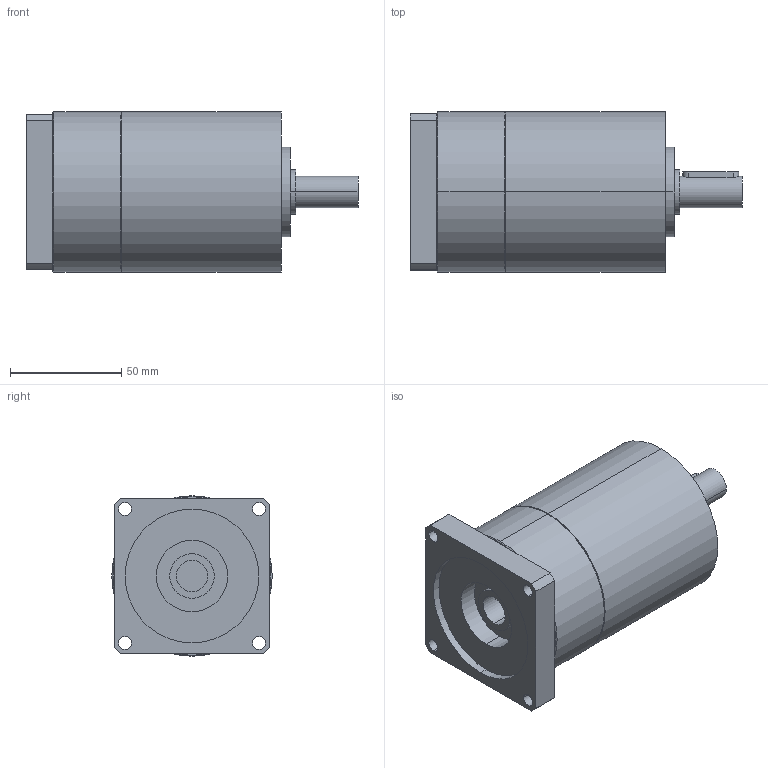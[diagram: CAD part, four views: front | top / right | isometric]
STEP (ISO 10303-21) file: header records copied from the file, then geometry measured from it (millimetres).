
FILE_DESCRIPTION(('CoCreate Modeling STEP Export'),'2;1');
FILE_NAME('GPT75_ig-9-12-16-20-25-28-35-40-50-70-100_14_B14T_14_P30.stp','2014-08-27T13:17:26',(''),(''),'CoCreate Modeling STEP processor for AP214 (Solid Model)','CoCreate Modeling 16.00C 25-Feb-2009 (C) Parametric Technology GmbH','');
FILE_SCHEMA(('AUTOMOTIVE_DESIGN { 1 0 10303 214 1 1 1 1 }'));
Length unit declared in the file: millimetre
Products named in the file (2): GPT75_ig-9-12-16-20-25-28-35-40-50-70-100_14_B14T_14_P30
Assembly tree (1 placements, depth 2):
  GPT75_ig-9-12-16-20-25-28-35-40-50-70-100_14_B14T_14_P30
    GPT75_ig-9-12-16-20-25-28-35-40-50-70-100_14_B14T_14_P30
Bounding box: 149 x 72 x 72 mm (x, y, z)
Volume: 463409.7 mm3; surface area: 43223.1 mm2
Topology: 1 solids, 1 shells, 76 faces, 182 edges, 121 vertices
Faces by surface type: cylinder 42, plane 30, cone 4
Entity records: 2265 total; most frequent: CARTESIAN_POINT 677, ORIENTED_EDGE 364, DIRECTION 268, EDGE_CURVE 182, VERTEX_POINT 121, AXIS2_PLACEMENT_3D 100, EDGE_LOOP 97, FACE_OUTER_BOUND 76
